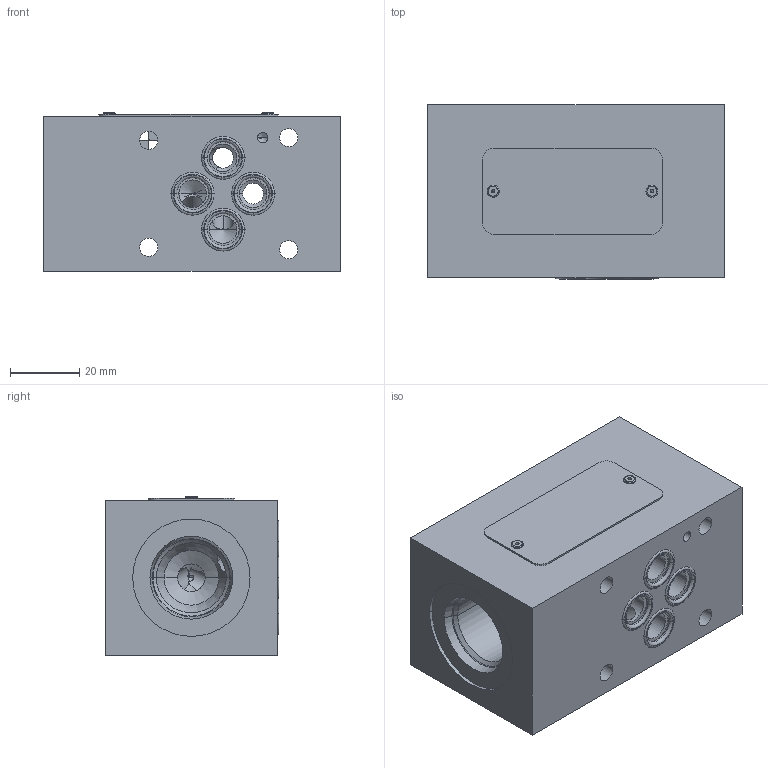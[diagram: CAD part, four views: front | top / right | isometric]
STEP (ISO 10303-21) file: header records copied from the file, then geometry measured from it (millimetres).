
FILE_DESCRIPTION((''),'2;1');
FILE_NAME('1000375376_ASM','2023-10-12T',('l.soukupova'),(''),'PRO/ENGINEER BY PARAMETRIC TECHNOLOGY CORPORATION, 2015440','PRO/ENGINEER BY PARAMETRIC TECHNOLOGY CORPORATION, 2015440','');
FILE_SCHEMA(('AUTOMOTIVE_DESIGN { 1 0 10303 214 1 1 1 1 }'));
Length unit declared in the file: millimetre
Products named in the file (5): 30119202; RD_LABEL_25X52_159703; AF_1932_16485; ORAR00012_201524; 1000375376_ASM
Assembly tree (8 placements, depth 2):
  1000375376_ASM
    30119202
    RD_LABEL_25X52_159703
    AF_1932_16485  x2
    ORAR00012_201524  x4
Bounding box: 86 x 50.38 x 46 mm (x, y, z)
Volume: 169870.9 mm3; surface area: 35550 mm2
Topology: 8 solids, 11 shells, 204 faces, 625 edges, 511 vertices
Faces by surface type: cylinder 98, cone 36, torus 36, plane 34
Entity records: 9157 total; most frequent: CARTESIAN_POINT 2015, DIRECTION 1017, ORIENTED_EDGE 728, PRESENTATION_STYLE_ASSIGNMENT 610, STYLED_ITEM 551, CURVE_STYLE 545, AXIS2_PLACEMENT_3D 393, EDGE_CURVE 370
